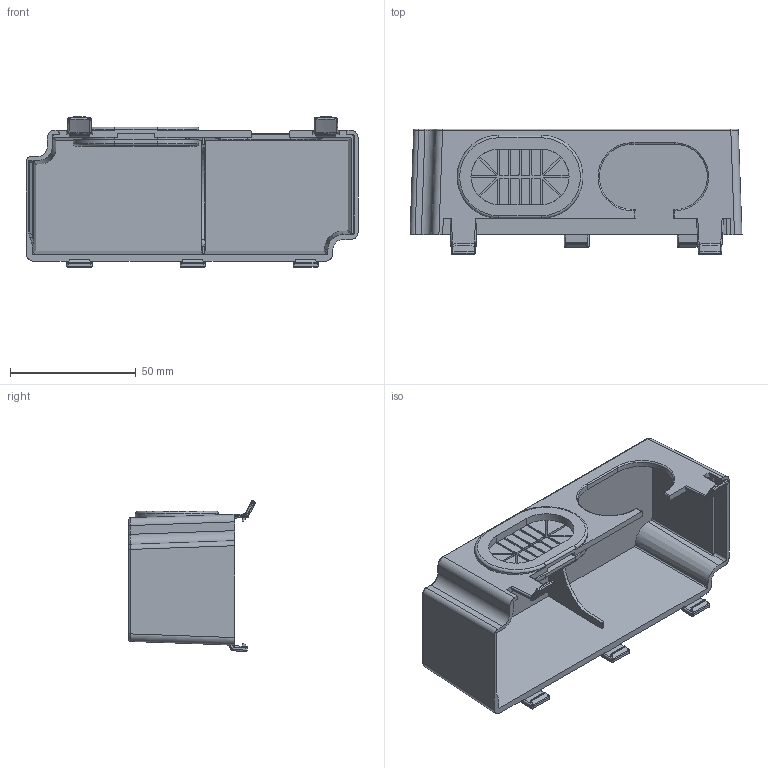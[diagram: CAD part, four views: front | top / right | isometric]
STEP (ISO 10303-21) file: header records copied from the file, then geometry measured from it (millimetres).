
FILE_DESCRIPTION((''),'2;1');
FILE_NAME('XBF5-FCZ-ASM-SH','2025-12-11T14:13:03',('Administrator'),(''),'CREO PARAMETRIC BY PTC INC, 2022073','CREO PARAMETRIC BY PTC INC, 2022073','');
FILE_SCHEMA(('AUTOMOTIVE_DESIGN { 1 0 10303 214 1 1 1 1 }'));
Length unit declared in the file: millimetre
Products named in the file (1): XBF5-FCZ-ASM-SH
Bounding box: 132 x 50.11 x 59.9 mm (x, y, z)
Volume: 47094.9 mm3; surface area: 41675.1 mm2
Topology: 1 solids, 1 shells, 397 faces, 995 edges, 610 vertices
Faces by surface type: plane 173, cylinder 130, bspline 38, sphere 27, torus 21, cone 8
Entity records: 15261 total; most frequent: CARTESIAN_POINT 5245, ORIENTED_EDGE 1982, DIRECTION 1791, EDGE_CURVE 991, VERTEX_POINT 610, AXIS2_PLACEMENT_3D 608, VECTOR 575, LINE 575
